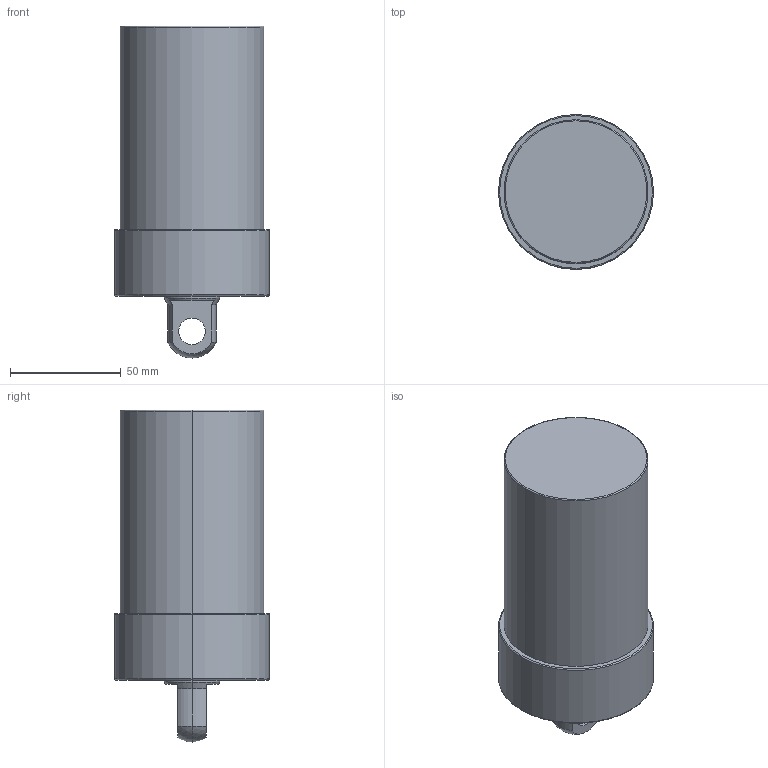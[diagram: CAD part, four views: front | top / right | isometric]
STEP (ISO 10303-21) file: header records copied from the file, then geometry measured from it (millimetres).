
FILE_DESCRIPTION (( 'STEP AP203' ), '1' );
FILE_NAME ('CLLU-065GP-075.STEP', '2020-01-06T09:28:51', ( '' ), ( '' ), 'SwSTEP 2.0', 'SolidWorks 2015', '' );
FILE_SCHEMA (( 'CONFIG_CONTROL_DESIGN' ));
Length unit declared in the file: millimetre
Products named in the file (1): CLLU-065GP-075
Bounding box: 70 x 70 x 150 mm (x, y, z)
Volume: 424926 mm3; surface area: 35881.9 mm2
Topology: 1 solids, 1 shells, 58 faces, 131 edges, 75 vertices
Faces by surface type: cylinder 23, cone 18, plane 9, torus 6, sphere 2
Entity records: 1658 total; most frequent: DIRECTION 311, CARTESIAN_POINT 269, ORIENTED_EDGE 246, AXIS2_PLACEMENT_3D 133, EDGE_CURVE 123, VERTEX_POINT 75, CIRCLE 74, EDGE_LOOP 68
